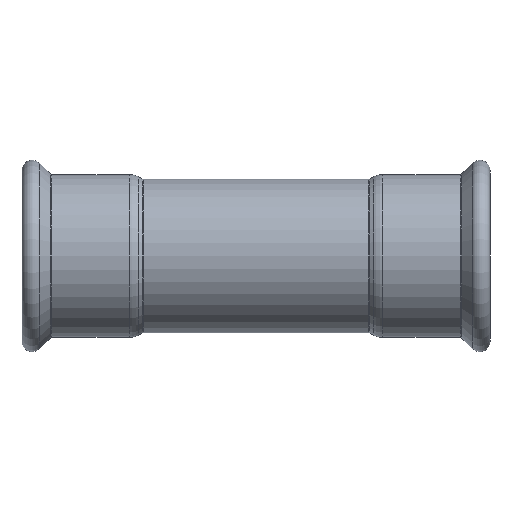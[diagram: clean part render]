
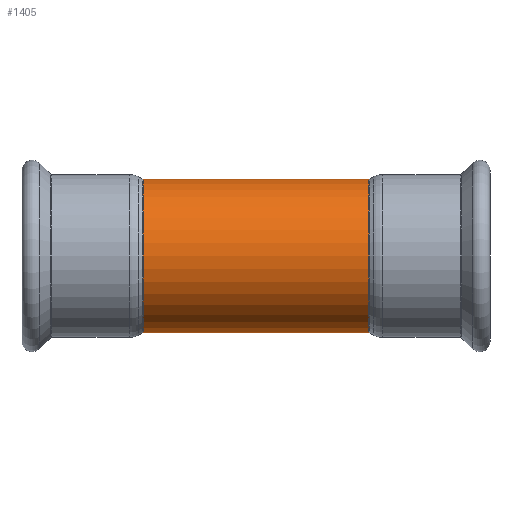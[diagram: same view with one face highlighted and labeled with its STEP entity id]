
A CAD part, front view. The second image highlights one B-rep face of the part: STEP entity #1405.
In plain terms, the highlighted cylindrical face has radius 37.55 mm (diameter 75.1 mm), a partial arc.
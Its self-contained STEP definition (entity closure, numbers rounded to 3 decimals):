
#25 = AXIS2_PLACEMENT_3D ( 'NONE', #2097, #2081, #1743 ) ;
#348 = VERTEX_POINT ( 'NONE', #889 ) ;
#428 = CARTESIAN_POINT ( 'NONE',  ( 55.056, 0., -37.55 ) ) ;
#538 = ORIENTED_EDGE ( 'NONE', *, *, #2884, .F. ) ;
#833 = VERTEX_POINT ( 'NONE', #3495 ) ;
#889 = CARTESIAN_POINT ( 'NONE',  ( -55.056, 0., 37.55 ) ) ;
#1043 = CYLINDRICAL_SURFACE ( 'NONE', #4054, 37.55 ) ;
#1280 = CARTESIAN_POINT ( 'NONE',  ( -55.056, 0., 0. ) ) ;
#1405 = ADVANCED_FACE ( 'NONE', ( #3983 ), #1043, .T. ) ;
#1505 = AXIS2_PLACEMENT_3D ( 'NONE', #1280, #4057, #1979 ) ;
#1621 = EDGE_CURVE ( 'NONE', #3879, #2407, #2449, .T. ) ;
#1663 = VECTOR ( 'NONE', #4301, 1000. ) ;
#1743 = DIRECTION ( 'NONE',  ( 0., 0., 1. ) ) ;
#1979 = DIRECTION ( 'NONE',  ( 0., 0., 1. ) ) ;
#2081 = DIRECTION ( 'NONE',  ( -1., 0., 0. ) ) ;
#2097 = CARTESIAN_POINT ( 'NONE',  ( 55.056, 0., 0. ) ) ;
#2407 = VERTEX_POINT ( 'NONE', #3973 ) ;
#2449 = CIRCLE ( 'NONE', #25, 37.55 ) ;
#2555 = CARTESIAN_POINT ( 'NONE',  ( 27.146, 0., 0. ) ) ;
#2652 = DIRECTION ( 'NONE',  ( 0., 0., 1. ) ) ;
#2691 = CIRCLE ( 'NONE', #1505, 37.55 ) ;
#2831 = CARTESIAN_POINT ( 'NONE',  ( 27.146, 0., -37.55 ) ) ;
#2884 = EDGE_CURVE ( 'NONE', #3879, #833, #4000, .T. ) ;
#2934 = EDGE_LOOP ( 'NONE', ( #538, #4262, #4208, #4462 ) ) ;
#2987 = DIRECTION ( 'NONE',  ( -1., 0., 0. ) ) ;
#3152 = EDGE_CURVE ( 'NONE', #2407, #348, #3996, .T. ) ;
#3495 = CARTESIAN_POINT ( 'NONE',  ( -55.056, 0., -37.55 ) ) ;
#3540 = DIRECTION ( 'NONE',  ( -1., 0., 0. ) ) ;
#3879 = VERTEX_POINT ( 'NONE', #428 ) ;
#3941 = CARTESIAN_POINT ( 'NONE',  ( 27.146, 0., 37.55 ) ) ;
#3973 = CARTESIAN_POINT ( 'NONE',  ( 55.056, 0., 37.55 ) ) ;
#3983 = FACE_OUTER_BOUND ( 'NONE', #2934, .T. ) ;
#3996 = LINE ( 'NONE', #3941, #1663 ) ;
#4000 = LINE ( 'NONE', #2831, #4268 ) ;
#4054 = AXIS2_PLACEMENT_3D ( 'NONE', #2555, #2987, #2652 ) ;
#4057 = DIRECTION ( 'NONE',  ( -1., 0., 0. ) ) ;
#4082 = EDGE_CURVE ( 'NONE', #833, #348, #2691, .T. ) ;
#4208 = ORIENTED_EDGE ( 'NONE', *, *, #3152, .T. ) ;
#4262 = ORIENTED_EDGE ( 'NONE', *, *, #1621, .T. ) ;
#4268 = VECTOR ( 'NONE', #3540, 1000. ) ;
#4301 = DIRECTION ( 'NONE',  ( -1., 0., 0. ) ) ;
#4462 = ORIENTED_EDGE ( 'NONE', *, *, #4082, .F. ) ;
